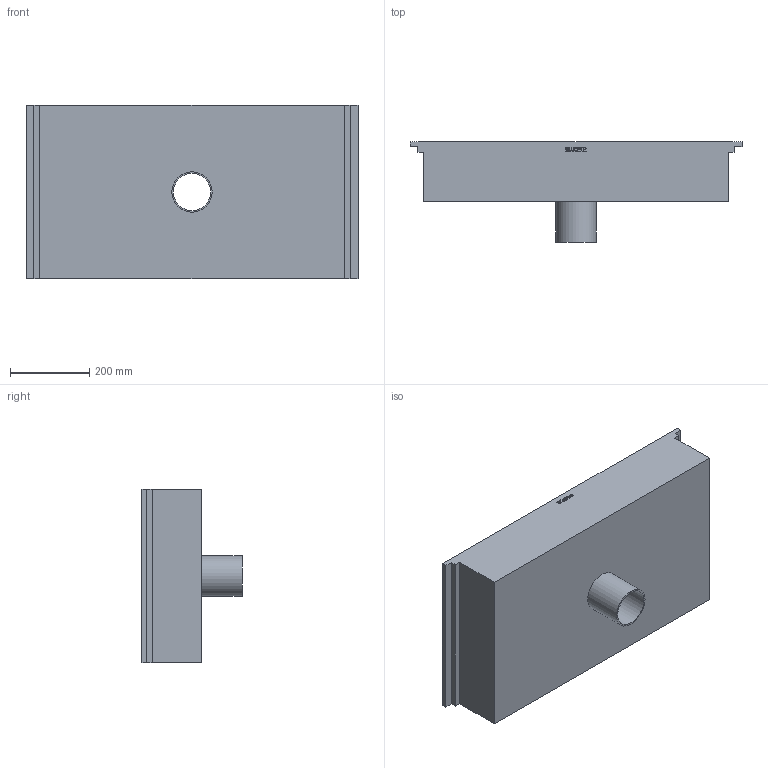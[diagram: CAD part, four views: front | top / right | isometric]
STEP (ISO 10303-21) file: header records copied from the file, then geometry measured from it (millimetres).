
FILE_DESCRIPTION((''),'2;1');
FILE_NAME('I:\WATTS\3D_CAD\3D_CAD_Models\Blucher_Drains\BKC_KitchenChannels\BKC-200\WebsiteFiles\3D\STEP\BKC-204-6.stp','2009-11-30T08:51:46',('menesek'),(''),'Autodesk Inventor 2010','Autodesk Inventor 2010','');
FILE_SCHEMA(('AUTOMOTIVE_DESIGN { 1 0 10303 214 1 1 1 1 }'));
Length unit declared in the file: inch
Products named in the file (1): BKC-204-6
Bounding box: 837 x 253 x 437 mm (x, y, z)
Volume: 6670848.5 mm3; surface area: 1484785.4 mm2
Topology: 1 solids, 1 shells, 142 faces, 385 edges, 257 vertices
Faces by surface type: plane 95, bspline 45, cylinder 2
Full cylindrical faces by diameter (mm): 93.6 x1, 101.6 x1
Entity records: 4799 total; most frequent: CARTESIAN_POINT 1501, ORIENTED_EDGE 764, DIRECTION 492, EDGE_CURVE 382, VECTOR 288, LINE 288, VERTEX_POINT 256, EDGE_LOOP 158
